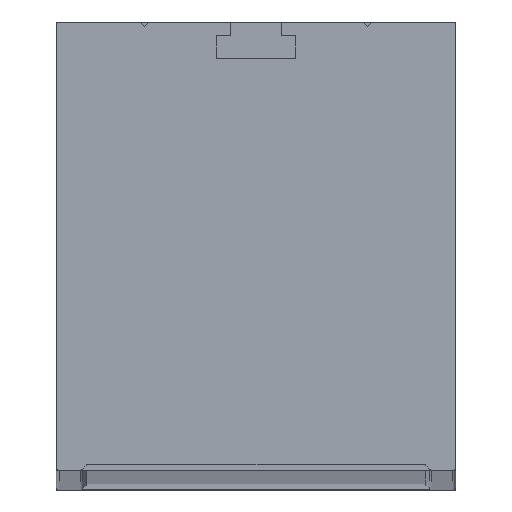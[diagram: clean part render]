
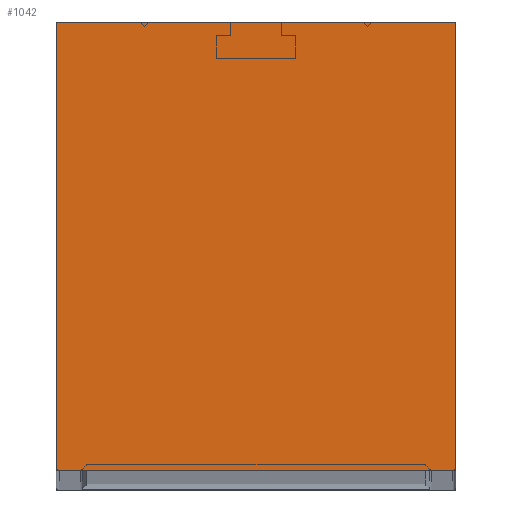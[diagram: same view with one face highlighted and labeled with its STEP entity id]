
A CAD part, top view. The second image highlights one B-rep face of the part: STEP entity #1042.
In plain terms, the highlighted planar face has unit normal (0, 0, 1).
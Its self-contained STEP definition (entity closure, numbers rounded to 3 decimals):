
#34 = EDGE_CURVE ( 'NONE', #340, #973, #83, .T. ) ;
#83 = LINE ( 'NONE', #164, #592 ) ;
#99 = CARTESIAN_POINT ( 'NONE',  ( -17.6, 39.5, 1003. ) ) ;
#153 = LINE ( 'NONE', #1256, #663 ) ;
#164 = CARTESIAN_POINT ( 'NONE',  ( -17.6, 39.5, 1003. ) ) ;
#170 = DIRECTION ( 'NONE',  ( 0., 0., 1. ) ) ;
#195 = CARTESIAN_POINT ( 'NONE',  ( 17.6, 0., 1003. ) ) ;
#289 = CARTESIAN_POINT ( 'NONE',  ( 0., 0., 1003. ) ) ;
#297 = EDGE_LOOP ( 'NONE', ( #943, #552, #926, #682 ) ) ;
#339 = CARTESIAN_POINT ( 'NONE',  ( -17.6, 0., 1003. ) ) ;
#340 = VERTEX_POINT ( 'NONE', #99 ) ;
#366 = EDGE_CURVE ( 'NONE', #973, #1307, #969, .T. ) ;
#394 = EDGE_CURVE ( 'NONE', #920, #340, #153, .T. ) ;
#414 = VECTOR ( 'NONE', #1325, 1000. ) ;
#422 = CARTESIAN_POINT ( 'NONE',  ( 17.6, 39.5, 1003. ) ) ;
#454 = DIRECTION ( 'NONE',  ( 0., 1., 0. ) ) ;
#552 = ORIENTED_EDGE ( 'NONE', *, *, #366, .T. ) ;
#592 = VECTOR ( 'NONE', #1283, 1000. ) ;
#641 = LINE ( 'NONE', #1120, #757 ) ;
#663 = VECTOR ( 'NONE', #753, 1000. ) ;
#682 = ORIENTED_EDGE ( 'NONE', *, *, #394, .T. ) ;
#753 = DIRECTION ( 'NONE',  ( -1., 0., 0. ) ) ;
#757 = VECTOR ( 'NONE', #454, 1000. ) ;
#845 = PLANE ( 'NONE',  #979 ) ;
#870 = DIRECTION ( 'NONE',  ( 1., 0., 0. ) ) ;
#920 = VERTEX_POINT ( 'NONE', #422 ) ;
#926 = ORIENTED_EDGE ( 'NONE', *, *, #1324, .T. ) ;
#943 = ORIENTED_EDGE ( 'NONE', *, *, #34, .T. ) ;
#969 = LINE ( 'NONE', #978, #414 ) ;
#973 = VERTEX_POINT ( 'NONE', #339 ) ;
#978 = CARTESIAN_POINT ( 'NONE',  ( -17.6, 0., 1003. ) ) ;
#979 = AXIS2_PLACEMENT_3D ( 'NONE', #289, #170, #870 ) ;
#995 = FACE_OUTER_BOUND ( 'NONE', #297, .T. ) ;
#1042 = ADVANCED_FACE ( 'NONE', ( #995 ), #845, .T. ) ;
#1120 = CARTESIAN_POINT ( 'NONE',  ( 17.6, 39.5, 1003. ) ) ;
#1256 = CARTESIAN_POINT ( 'NONE',  ( -17.6, 39.5, 1003. ) ) ;
#1283 = DIRECTION ( 'NONE',  ( 0., -1., 0. ) ) ;
#1307 = VERTEX_POINT ( 'NONE', #195 ) ;
#1324 = EDGE_CURVE ( 'NONE', #1307, #920, #641, .T. ) ;
#1325 = DIRECTION ( 'NONE',  ( 1., 0., 0. ) ) ;
